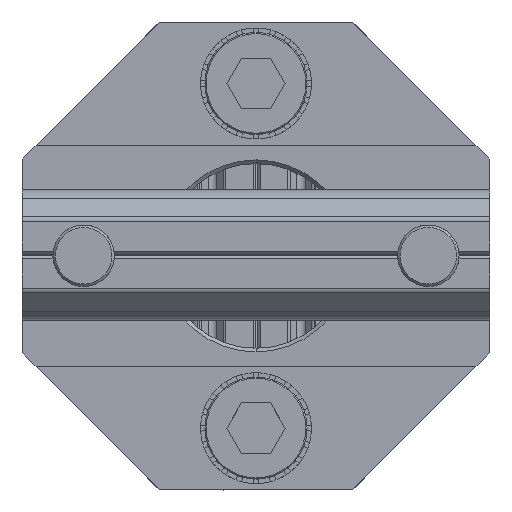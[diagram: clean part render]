
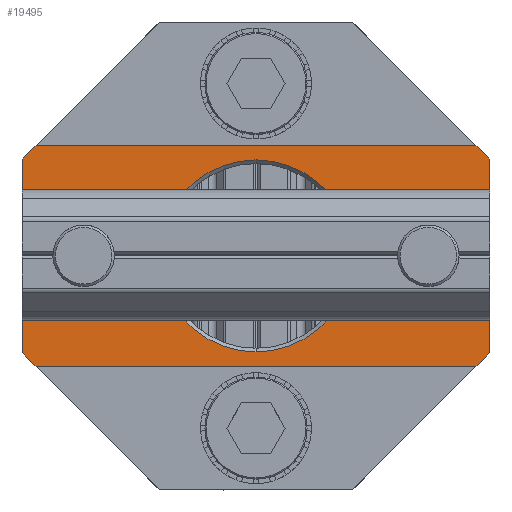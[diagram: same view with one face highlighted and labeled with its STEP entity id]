
A CAD part, top view. The second image highlights one B-rep face of the part: STEP entity #19495.
In plain terms, the highlighted planar face has unit normal (0, 0, 1).
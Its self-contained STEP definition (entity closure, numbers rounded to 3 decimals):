
#398 = CARTESIAN_POINT ( 'NONE',  ( -103.744, 19.178, 37.332 ) ) ;
#426 = VECTOR ( 'NONE', #15519, 1000. ) ;
#491 = EDGE_CURVE ( 'NONE', #33395, #18401, #21815, .T. ) ;
#504 = EDGE_CURVE ( 'NONE', #14714, #3951, #10921, .T. ) ;
#647 = CIRCLE ( 'NONE', #30716, 2.95 ) ;
#816 = EDGE_CURVE ( 'NONE', #3951, #14714, #3536, .T. ) ;
#1618 = DIRECTION ( 'NONE',  ( 0., 0., -1. ) ) ;
#2478 = DIRECTION ( 'NONE',  ( 0., 0., -1. ) ) ;
#2536 = DIRECTION ( 'NONE',  ( -1., 0., 0. ) ) ;
#2558 = CARTESIAN_POINT ( 'NONE',  ( -75.744, 13.278, 37.332 ) ) ;
#2691 = AXIS2_PLACEMENT_3D ( 'NONE', #4261, #24588, #7642 ) ;
#3536 = CIRCLE ( 'NONE', #2691, 2.95 ) ;
#3584 = DIRECTION ( 'NONE',  ( 0., 1., 0. ) ) ;
#3951 = VERTEX_POINT ( 'NONE', #31748 ) ;
#4261 = CARTESIAN_POINT ( 'NONE',  ( -103.744, 16.228, 37.332 ) ) ;
#4768 = CARTESIAN_POINT ( 'NONE',  ( -70.744, 8.358, 37.332 ) ) ;
#4896 = CARTESIAN_POINT ( 'NONE',  ( -89.744, 8.428, 37.332 ) ) ;
#4976 = CARTESIAN_POINT ( 'NONE',  ( -89.744, 16.228, 37.332 ) ) ;
#5119 = LINE ( 'NONE', #41141, #16619 ) ;
#5242 = VERTEX_POINT ( 'NONE', #4896 ) ;
#5260 = FACE_BOUND ( 'NONE', #26915, .T. ) ;
#5402 = CARTESIAN_POINT ( 'NONE',  ( -71.874, 7.228, 37.332 ) ) ;
#6513 = VECTOR ( 'NONE', #25201, 1000. ) ;
#6652 = AXIS2_PLACEMENT_3D ( 'NONE', #4976, #1618, #18216 ) ;
#7642 = DIRECTION ( 'NONE',  ( -1., 0., 0. ) ) ;
#7667 = CARTESIAN_POINT ( 'NONE',  ( -107.614, 7.228, 37.332 ) ) ;
#7907 = VERTEX_POINT ( 'NONE', #41180 ) ;
#8105 = EDGE_CURVE ( 'NONE', #25527, #25976, #41249, .T. ) ;
#8115 = ORIENTED_EDGE ( 'NONE', *, *, #28045, .F. ) ;
#8763 = VERTEX_POINT ( 'NONE', #25207 ) ;
#8783 = ORIENTED_EDGE ( 'NONE', *, *, #22298, .T. ) ;
#8795 = VERTEX_POINT ( 'NONE', #2558 ) ;
#9150 = CARTESIAN_POINT ( 'NONE',  ( -75.744, 16.228, 37.332 ) ) ;
#9199 = CARTESIAN_POINT ( 'NONE',  ( 0., 0., 37.332 ) ) ;
#9299 = VERTEX_POINT ( 'NONE', #9668 ) ;
#9570 = ORIENTED_EDGE ( 'NONE', *, *, #42535, .T. ) ;
#9668 = CARTESIAN_POINT ( 'NONE',  ( -71.874, 25.228, 37.332 ) ) ;
#10006 = DIRECTION ( 'NONE',  ( 0., 0., -1. ) ) ;
#10434 = EDGE_CURVE ( 'NONE', #18401, #20557, #36919, .T. ) ;
#10702 = VECTOR ( 'NONE', #3584, 1000. ) ;
#10781 = ORIENTED_EDGE ( 'NONE', *, *, #40194, .F. ) ;
#10875 = CIRCLE ( 'NONE', #27833, 2.95 ) ;
#10921 = CIRCLE ( 'NONE', #30494, 2.95 ) ;
#11031 = DIRECTION ( 'NONE',  ( 1., 0., 0. ) ) ;
#11125 = CARTESIAN_POINT ( 'NONE',  ( -107.614, 25.228, 37.332 ) ) ;
#11412 = ORIENTED_EDGE ( 'NONE', *, *, #8105, .F. ) ;
#11642 = LINE ( 'NONE', #38290, #42718 ) ;
#11906 = CARTESIAN_POINT ( 'NONE',  ( -108.744, 24.098, 37.332 ) ) ;
#12444 = CARTESIAN_POINT ( 'NONE',  ( -107.614, 7.228, 37.332 ) ) ;
#12616 = DIRECTION ( 'NONE',  ( -1., 0., 0. ) ) ;
#13479 = DIRECTION ( 'NONE',  ( -1., 0., 0. ) ) ;
#14714 = VERTEX_POINT ( 'NONE', #398 ) ;
#15519 = DIRECTION ( 'NONE',  ( -1., 0., 0. ) ) ;
#16141 = CARTESIAN_POINT ( 'NONE',  ( -108.744, 8.358, 37.332 ) ) ;
#16619 = VECTOR ( 'NONE', #11031, 1000. ) ;
#17027 = CIRCLE ( 'NONE', #6652, 7.8 ) ;
#17444 = LINE ( 'NONE', #16141, #10702 ) ;
#17705 = DIRECTION ( 'NONE',  ( 0.707, -0.707, 0. ) ) ;
#17846 = CARTESIAN_POINT ( 'NONE',  ( -108.744, 24.098, 37.332 ) ) ;
#18045 = DIRECTION ( 'NONE',  ( 0., -1., 0. ) ) ;
#18188 = EDGE_CURVE ( 'NONE', #40773, #33395, #42322, .T. ) ;
#18216 = DIRECTION ( 'NONE',  ( -1., 0., 0. ) ) ;
#18401 = VERTEX_POINT ( 'NONE', #7667 ) ;
#18833 = CARTESIAN_POINT ( 'NONE',  ( -103.744, 16.228, 37.332 ) ) ;
#19092 = ORIENTED_EDGE ( 'NONE', *, *, #504, .T. ) ;
#19097 = EDGE_LOOP ( 'NONE', ( #20769, #8783 ) ) ;
#19399 = DIRECTION ( 'NONE',  ( 0., 0., -1. ) ) ;
#19495 = ADVANCED_FACE ( 'NONE', ( #5260, #26019, #38461, #29148 ), #35290, .F. ) ;
#19662 = CARTESIAN_POINT ( 'NONE',  ( -108.744, 8.358, 37.332 ) ) ;
#20077 = VECTOR ( 'NONE', #17705, 1000. ) ;
#20299 = AXIS2_PLACEMENT_3D ( 'NONE', #9199, #2478, #38596 ) ;
#20557 = VERTEX_POINT ( 'NONE', #19662 ) ;
#20769 = ORIENTED_EDGE ( 'NONE', *, *, #37742, .T. ) ;
#21815 = LINE ( 'NONE', #12444, #426 ) ;
#22298 = EDGE_CURVE ( 'NONE', #40339, #8795, #647, .T. ) ;
#23337 = CARTESIAN_POINT ( 'NONE',  ( -75.744, 16.228, 37.332 ) ) ;
#24588 = DIRECTION ( 'NONE',  ( 0., 0., -1. ) ) ;
#25063 = ORIENTED_EDGE ( 'NONE', *, *, #32402, .F. ) ;
#25201 = DIRECTION ( 'NONE',  ( -0.707, -0.707, 0. ) ) ;
#25207 = CARTESIAN_POINT ( 'NONE',  ( -89.744, 24.028, 37.332 ) ) ;
#25342 = AXIS2_PLACEMENT_3D ( 'NONE', #38947, #25471, #12616 ) ;
#25471 = DIRECTION ( 'NONE',  ( 0., 0., -1. ) ) ;
#25527 = VERTEX_POINT ( 'NONE', #17846 ) ;
#25752 = LINE ( 'NONE', #34647, #20077 ) ;
#25766 = ORIENTED_EDGE ( 'NONE', *, *, #10434, .F. ) ;
#25976 = VERTEX_POINT ( 'NONE', #11125 ) ;
#26019 = FACE_BOUND ( 'NONE', #33478, .T. ) ;
#26915 = EDGE_LOOP ( 'NONE', ( #9570, #38757 ) ) ;
#27833 = AXIS2_PLACEMENT_3D ( 'NONE', #9150, #38976, #35819 ) ;
#28045 = EDGE_CURVE ( 'NONE', #25976, #9299, #5119, .T. ) ;
#29148 = FACE_OUTER_BOUND ( 'NONE', #42690, .T. ) ;
#30203 = VECTOR ( 'NONE', #32790, 1000. ) ;
#30494 = AXIS2_PLACEMENT_3D ( 'NONE', #18833, #19399, #2536 ) ;
#30716 = AXIS2_PLACEMENT_3D ( 'NONE', #23337, #10006, #13479 ) ;
#31748 = CARTESIAN_POINT ( 'NONE',  ( -103.744, 13.278, 37.332 ) ) ;
#31803 = EDGE_CURVE ( 'NONE', #9299, #7907, #25752, .T. ) ;
#32402 = EDGE_CURVE ( 'NONE', #20557, #25527, #17444, .T. ) ;
#32790 = DIRECTION ( 'NONE',  ( -0.707, 0.707, 0. ) ) ;
#33395 = VERTEX_POINT ( 'NONE', #5402 ) ;
#33478 = EDGE_LOOP ( 'NONE', ( #42929, #19092 ) ) ;
#34104 = ORIENTED_EDGE ( 'NONE', *, *, #31803, .F. ) ;
#34647 = CARTESIAN_POINT ( 'NONE',  ( -81.874, 35.228, 37.332 ) ) ;
#34794 = EDGE_CURVE ( 'NONE', #8763, #5242, #17027, .T. ) ;
#35118 = DIRECTION ( 'NONE',  ( 0.707, 0.707, 0. ) ) ;
#35290 = PLANE ( 'NONE',  #20299 ) ;
#35819 = DIRECTION ( 'NONE',  ( -1., 0., 0. ) ) ;
#36233 = CARTESIAN_POINT ( 'NONE',  ( -97.614, -2.772, 37.332 ) ) ;
#36919 = LINE ( 'NONE', #36233, #30203 ) ;
#36954 = CIRCLE ( 'NONE', #25342, 7.8 ) ;
#37742 = EDGE_CURVE ( 'NONE', #8795, #40339, #10875, .T. ) ;
#38290 = CARTESIAN_POINT ( 'NONE',  ( -70.744, 24.098, 37.332 ) ) ;
#38461 = FACE_BOUND ( 'NONE', #19097, .T. ) ;
#38596 = DIRECTION ( 'NONE',  ( -1., 0., 0. ) ) ;
#38757 = ORIENTED_EDGE ( 'NONE', *, *, #34794, .T. ) ;
#38796 = CARTESIAN_POINT ( 'NONE',  ( -70.744, 8.358, 37.332 ) ) ;
#38846 = CARTESIAN_POINT ( 'NONE',  ( -75.744, 19.178, 37.332 ) ) ;
#38947 = CARTESIAN_POINT ( 'NONE',  ( -89.744, 16.228, 37.332 ) ) ;
#38976 = DIRECTION ( 'NONE',  ( 0., 0., -1. ) ) ;
#39970 = ORIENTED_EDGE ( 'NONE', *, *, #18188, .F. ) ;
#40194 = EDGE_CURVE ( 'NONE', #7907, #40773, #11642, .T. ) ;
#40339 = VERTEX_POINT ( 'NONE', #38846 ) ;
#40773 = VERTEX_POINT ( 'NONE', #4768 ) ;
#41141 = CARTESIAN_POINT ( 'NONE',  ( -71.874, 25.228, 37.332 ) ) ;
#41180 = CARTESIAN_POINT ( 'NONE',  ( -70.744, 24.098, 37.332 ) ) ;
#41249 = LINE ( 'NONE', #11906, #42829 ) ;
#41391 = ORIENTED_EDGE ( 'NONE', *, *, #491, .F. ) ;
#42322 = LINE ( 'NONE', #38796, #6513 ) ;
#42535 = EDGE_CURVE ( 'NONE', #5242, #8763, #36954, .T. ) ;
#42690 = EDGE_LOOP ( 'NONE', ( #41391, #39970, #10781, #34104, #8115, #11412, #25063, #25766 ) ) ;
#42718 = VECTOR ( 'NONE', #18045, 1000. ) ;
#42829 = VECTOR ( 'NONE', #35118, 1000. ) ;
#42929 = ORIENTED_EDGE ( 'NONE', *, *, #816, .T. ) ;
